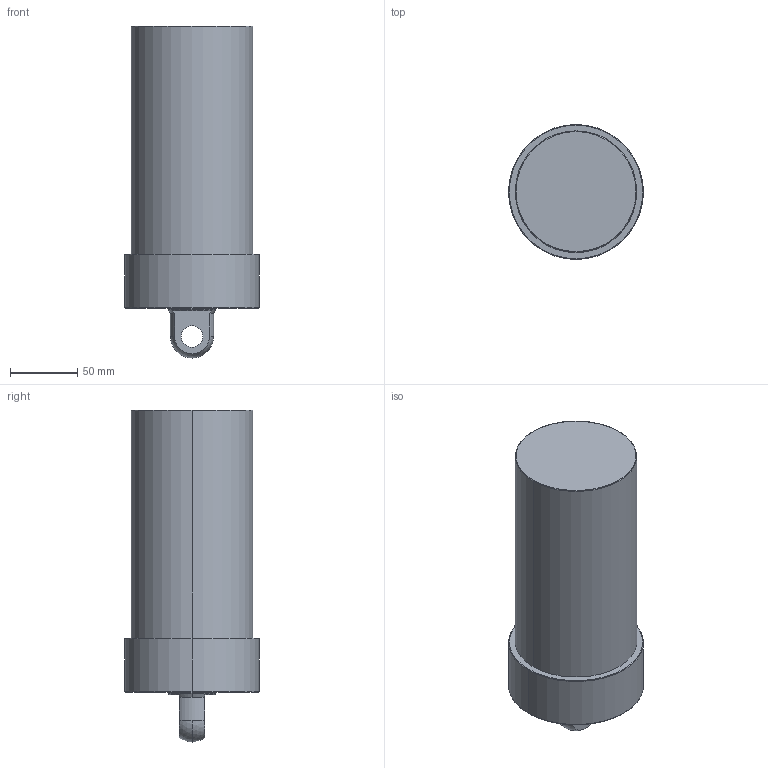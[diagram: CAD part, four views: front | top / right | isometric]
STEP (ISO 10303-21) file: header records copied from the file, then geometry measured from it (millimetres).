
FILE_DESCRIPTION (( 'STEP AP203' ), '1' );
FILE_NAME ('CLLU-090GP-125.STEP', '2020-01-15T01:48:57', ( '' ), ( '' ), 'SwSTEP 2.0', 'SolidWorks 2015', '' );
FILE_SCHEMA (( 'CONFIG_CONTROL_DESIGN' ));
Length unit declared in the file: millimetre
Products named in the file (1): CLLU-090GP-125
Bounding box: 100 x 100 x 246 mm (x, y, z)
Volume: 1398293.7 mm3; surface area: 82238.9 mm2
Topology: 1 solids, 1 shells, 58 faces, 131 edges, 75 vertices
Faces by surface type: cylinder 23, cone 18, plane 9, torus 6, sphere 2
Entity records: 1658 total; most frequent: DIRECTION 311, CARTESIAN_POINT 269, ORIENTED_EDGE 246, AXIS2_PLACEMENT_3D 133, EDGE_CURVE 123, VERTEX_POINT 75, CIRCLE 74, EDGE_LOOP 68
